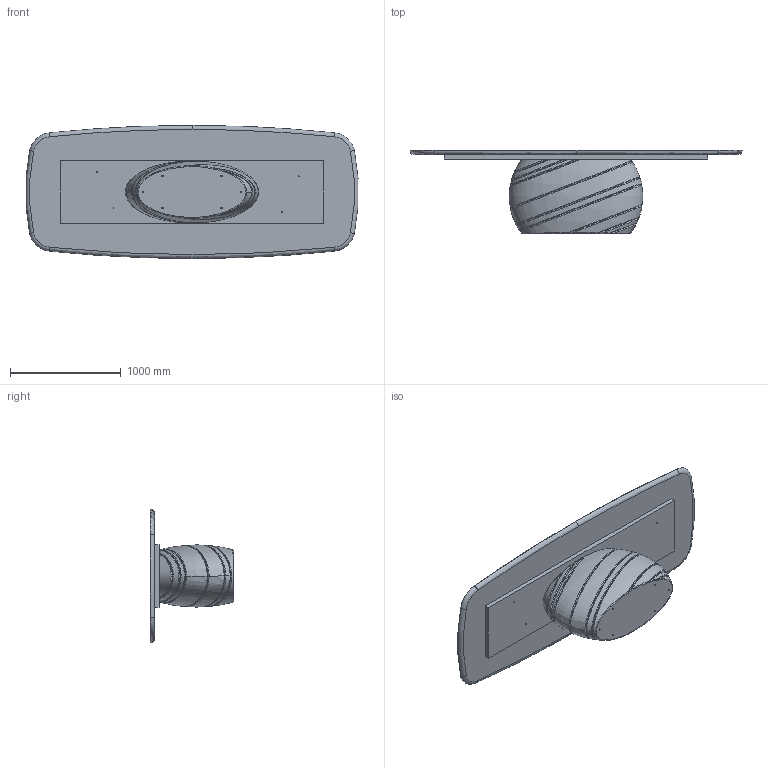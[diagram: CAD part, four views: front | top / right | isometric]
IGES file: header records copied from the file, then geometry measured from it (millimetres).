
Start section: SolidWorks IGES file using analytic representation for surfaces
Global section: file name: Y:\eforma\TECNICO\SOLIDWORKS\E-FORMA\1-TAVOLI\GIOVE\08 modelli 3D web\GI44W.IGS; native system: SolidWorks 2022; preprocessor: SolidWorks 2022; author: eforma.tech; date: 250422.162221; units: millimetre
Bounding box: 2991.72 x 750 x 1200 mm (x, y, z)
Volume: 495233948.3 mm3; surface area: 12550052.6 mm2
Topology: 3 solids, 3 shells, 162 faces, 391 edges, 250 vertices
Faces by surface type: revolution 78, bspline 53, plane 31
